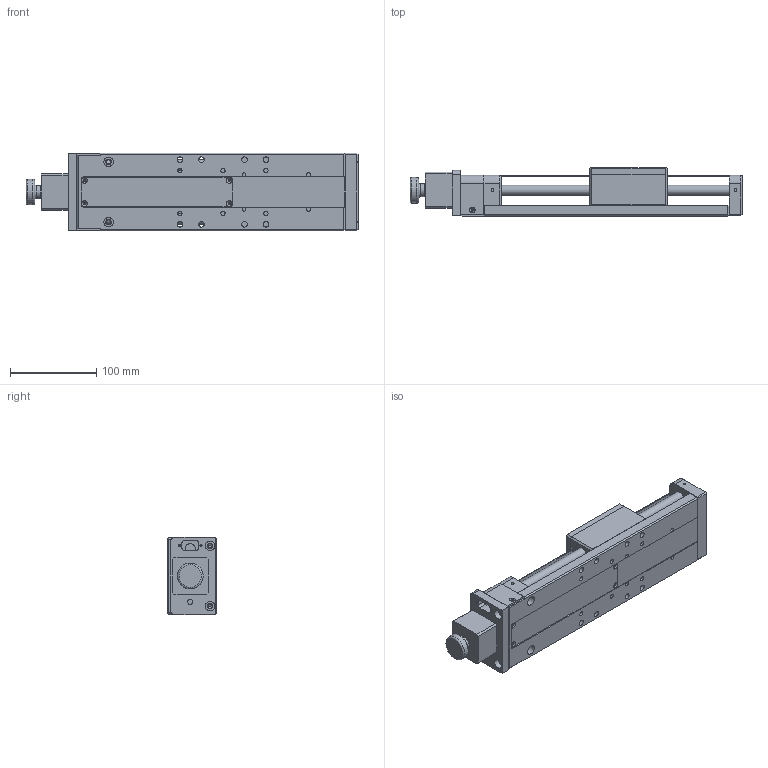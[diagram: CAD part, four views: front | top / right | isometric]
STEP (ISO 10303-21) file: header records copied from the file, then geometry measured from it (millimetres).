
FILE_DESCRIPTION (( 'STEP AP203' ), '1' );
FILE_NAME ('PP120-150蚾饜极.STEP', '2020-10-31T08:43:05', ( '' ), ( '' ), 'SwSTEP 2.0', 'SolidWorks 2016', '' );
FILE_SCHEMA (( 'CONFIG_CONTROL_DESIGN' ));
Length unit declared in the file: millimetre
Products named in the file (24): PP120-6腹雄粣創釱90150; 42150; SFU1204蹟譫150; 錨璃5^PP120-150蚾饜极; PP120-7薊粣ん裔啣90150; PP120-9賑輸啣90150; PP120-3EK8佪話坶譫150; PP120-1萇儂釱150; PP120-150蚾饜极; PP120-50-3盄裔啣150; PP120-50-1菁啣150; 萇儂忒謫; PP120-4EF6EF8腹黑芛150; PP120-50-2裔啣150; PP120-50-4嫖粣150; angular contact ball bearings gb_Rolling bearings S708 GB 292-94; D15-21-5-6150; PP120-5嘐隅粣創釱90150; deep groove ball bearings gb_Rolling bearings 606 GB 276-94; PP120-10嫖粣掖譫90150; PP120-8怢醱90150; PP120-50-5SFU1204P1 佪話150; PP120-2EK8掖譫150; LM-12LUU150
Assembly tree (25 placements, depth 2):
  錨璃5^PP120-150蚾饜极
  PP120-150蚾饜极
    PP120-50-1菁啣150
    PP120-1萇儂釱150
    PP120-6腹雄粣創釱90150
    42150
    PP120-5嘐隅粣創釱90150
    angular contact ball bearings gb_Rolling bearings S708 GB 292-94
    deep groove ball bearings gb_Rolling bearings 606 GB 276-94
    PP120-50-5SFU1204P1 佪話150
    PP120-3EK8佪話坶譫150
    PP120-2EK8掖譫150
    PP120-4EF6EF8腹黑芛150
    PP120-50-4嫖粣150  x2
    PP120-9賑輸啣90150
    PP120-50-2裔啣150
    PP120-8怢醱90150
    SFU1204蹟譫150
    D15-21-5-6150
    PP120-50-3盄裔啣150
    PP120-10嫖粣掖譫90150  x2
    LM-12LUU150  x2
    PP120-7薊粣ん裔啣90150
    萇儂忒謫
Bounding box: 386 x 56 x 90 mm (x, y, z)
Volume: 928250.7 mm3; surface area: 318812.6 mm2
Topology: 25 solids, 25 shells, 709 faces, 1832 edges, 1206 vertices
Faces by surface type: cylinder 271, plane 266, cone 64, torus 61, sphere 24, bspline 23
Full cylindrical faces by diameter (mm): 1.5 x18, 2.5 x17, 3.3 x30, 3.4 x8, 3.5 x6, 4.5 x14, 5 x29, 6 x8, 6.5 x14, 7 x4, 7.5 x1, 7.6 x1, 8 x12, 9.667 x2, 11 x15, 12 x10, 12.667 x2, 13 x1, 13.333 x2, 14 x6, 15 x3, 16 x1, 17 x1, 17.333 x1, 17.853 x1, 18.653 x1, 20 x6, 21 x8, 22 x7, 23.3 x1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
Entity records: 32393 total; most frequent: CARTESIAN_POINT 15121, DIRECTION 2994, ORIENTED_EDGE 2584, AXIS2_PLACEMENT_3D 1294, EDGE_CURVE 1292, EDGE_LOOP 1246, VERTEX_POINT 994, FACE_OUTER_BOUND 876
